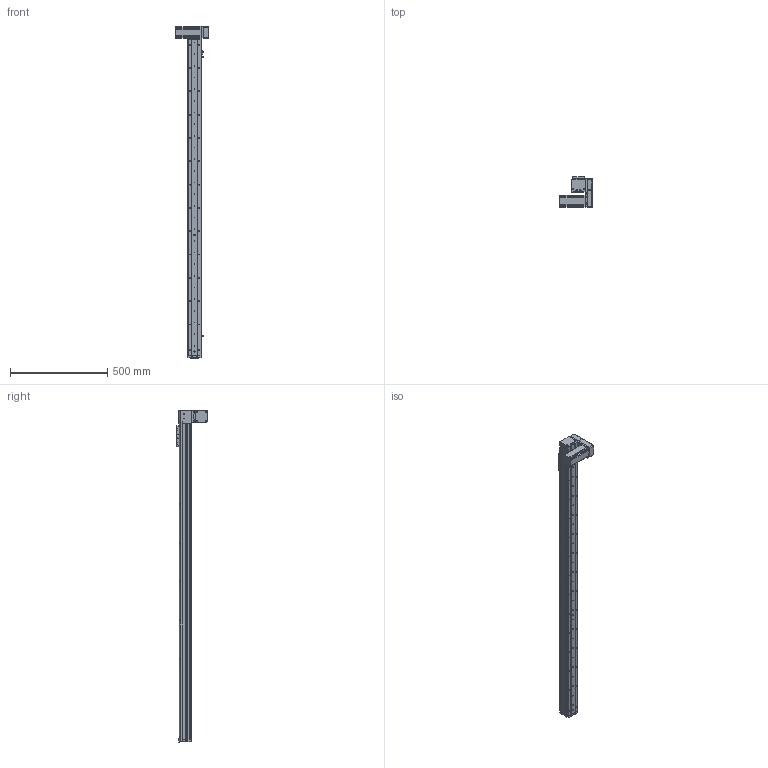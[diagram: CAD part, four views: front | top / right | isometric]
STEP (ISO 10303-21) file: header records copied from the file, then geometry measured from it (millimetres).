
FILE_DESCRIPTION (( 'STEP AP214' ), '1' );
FILE_NAME ('KSD68BS-S1450-MLD-CR.STEP', '2019-11-07T05:52:28', ( '微软用户' ), ( '微软中国' ), 'SwSTEP 2.0', 'SolidWorks 2014', '' );
FILE_SCHEMA (( 'AUTOMOTIVE_DESIGN' ));
Length unit declared in the file: millimetre
Products named in the file (14): KSD68BS 1450行程盖板全封闭; U倰嫖萇EEㄜSX672; 台达ECMA－C20604AS伺服电机（400W); KSD68BS 1450行程底板全封闭; 68遵裔啣揤啣1; KSD68BS-S1450-MLD-CR; 68宽单导轨全封闭丝杆传动安装板1防护罩; KSD68BS 1450行程侧板全封闭; 68宽单导轨全封闭同步带端板; 68单导轨全封闭同步带电机座左; 68单导轨全封闭同步带安装板; 悵誘欶奻狟殏; 68宽马达安装板连板上折同步带; 感应片68宽全封闭
Assembly tree (17 placements, depth 2):
  KSD68BS-S1450-MLD-CR
    KSD68BS 1450行程底板全封闭
    台达ECMA－C20604AS伺服电机（400W)
    U倰嫖萇EEㄜSX672  x3
    感应片68宽全封闭
    68宽马达安装板连板上折同步带
    悵誘欶奻狟殏
    68单导轨全封闭同步带安装板
    68单导轨全封闭同步带电机座左
    68宽单导轨全封闭同步带端板
    KSD68BS 1450行程侧板全封闭  x2
    68宽单导轨全封闭丝杆传动安装板1防护罩
    68遵裔啣揤啣1  x2
    KSD68BS 1450行程盖板全封闭
Bounding box: 167.2 x 155.5 x 1708.1 mm (x, y, z)
Volume: 3142462.7 mm3; surface area: 1258182.4 mm2
Topology: 18 solids, 18 shells, 1589 faces, 4563 edges, 2910 vertices
Faces by surface type: cylinder 776, plane 629, cone 184
Entity records: 51567 total; most frequent: CARTESIAN_POINT 8973, DIRECTION 7678, ORIENTED_EDGE 7346, EDGE_CURVE 3673, AXIS2_PLACEMENT_3D 2795, VERTEX_POINT 2408, LINE 2088, VECTOR 2088
